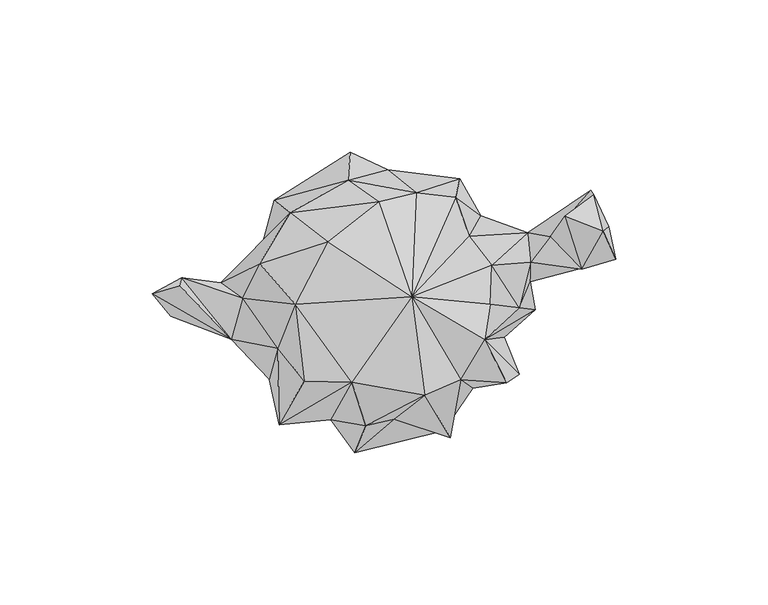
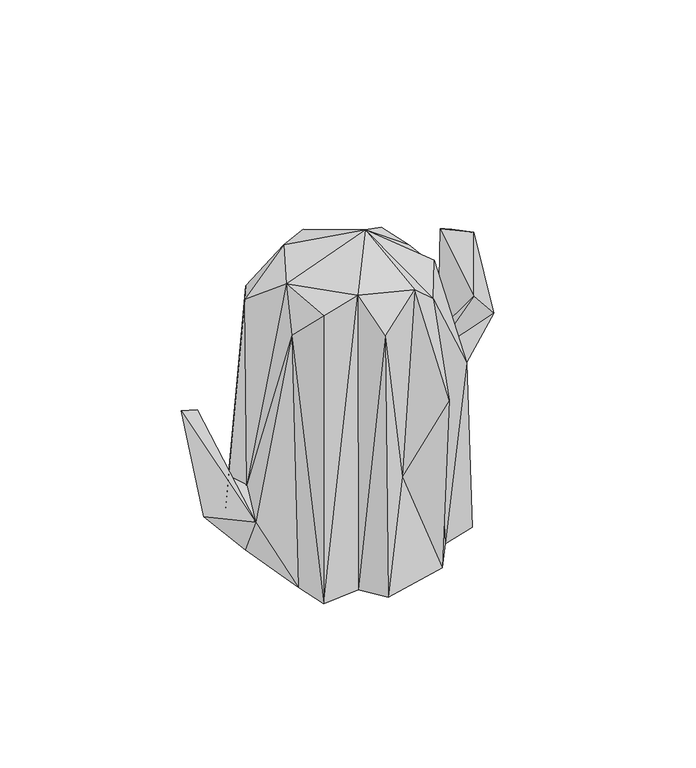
"""IFC4 building model written with IfcOpenShell, lengths in millimetres: geographic element geometry, Enscape AssetDefinition - Cactus, Porcelain 03 : Enscape AssetDefinition - Cactus, Porcelain 03."""

import ifcopenshell
import ifcopenshell.guid

model = None  # the IFC model being written
_history = None  # IfcOwnerHistory: only IFC2X3 demands one
_inside = {}  # id of a spatial element -> (the spatial element, [elements in it])
_under = {}  # id of a project, library or spatial element -> (it, [spatial elements below it])
_declared = {}  # id of a project -> (the project, [libraries it declares])
_typed = {}  # id of a type object -> (the type object, [elements of that type])
_made_of = {}  # id of a material, layer set ... -> (it, [elements and type objects made of it])


def new_model(schema):
    """Start an empty IFC model of exactly this schema.

    Asked for "IFC4X3", IfcOpenShell would pick the latest addendum, in which some entities
    have other attributes; the version numbers below select the first issue.
    IFC2X3 requires an IfcOwnerHistory on every rooted entity: one is made here for all.
    """
    global model, _history
    if schema == "IFC4X3":
        model = ifcopenshell.file(schema_version=(4, 3, 0, 0))
    else:
        model = ifcopenshell.file(schema=schema)
    _inside.clear()
    _under.clear()
    _declared.clear()
    _typed.clear()
    _made_of.clear()
    _history = None
    if model.schema == "IFC2X3":
        org = make("IfcOrganization", Name="unknown")
        user = make(
            "IfcPersonAndOrganization",
            ThePerson=make("IfcPerson", FamilyName="unknown"),
            TheOrganization=org,
        )
        app = make(
            "IfcApplication",
            ApplicationDeveloper=org,
            Version="unknown",
            ApplicationFullName="unknown",
            ApplicationIdentifier="unknown",
        )
        _history = make(
            "IfcOwnerHistory",
            OwningUser=user,
            OwningApplication=app,
            ChangeAction="ADDED",
            CreationDate=0,
        )
    return model


def make(cls, **values):
    """One entity of the class cls with the attributes given. An attribute that is None is left unset."""
    return model.create_entity(
        cls, **{name: value for name, value in values.items() if value is not None}
    )


def rooted(cls, **values):
    """An entity with a GlobalId (a new one), such as an element, a storey or a relation."""
    return make(cls, GlobalId=ifcopenshell.guid.new(), OwnerHistory=_history, **values)


def si_unit(unit_type, name, prefix=None):
    """IfcSIUnit, for example si_unit("LENGTHUNIT", "METRE", prefix="MILLI")."""
    return make("IfcSIUnit", UnitType=unit_type, Prefix=prefix, Name=name)


def assignment(units):
    """IfcUnitAssignment: the units of a project."""
    return None if units is None else make("IfcUnitAssignment", Units=units)


def point(xyz):
    """IfcCartesianPoint."""
    return None if xyz is None else make("IfcCartesianPoint", Coordinates=xyz)


def direction(xyz):
    """IfcDirection."""
    return None if xyz is None else make("IfcDirection", DirectionRatios=xyz)


def frame(location, z_axis=None, x_axis=None):
    """IfcAxis2Placement3D, a coordinate frame: its origin and axes. An axis left out is left unset."""
    return make(
        "IfcAxis2Placement3D",
        Location=point(location),
        Axis=direction(z_axis),
        RefDirection=direction(x_axis),
    )


def origin():
    """The frame at (0, 0, 0) with its axes left unset."""
    return frame((0.0, 0.0, 0.0))


def place(relative_to, where):
    """IfcLocalPlacement: puts the frame where relative to a parent placement (None: the world)."""
    return make(
        "IfcLocalPlacement", PlacementRelTo=relative_to, RelativePlacement=where
    )


def context(
    kind, dimensions, precision=None, world=None, true_north=None, identifier=None
):
    """IfcGeometricRepresentationContext, for example the 3D "Model" context."""
    return make(
        "IfcGeometricRepresentationContext",
        ContextIdentifier=identifier,
        ContextType=kind,
        CoordinateSpaceDimension=dimensions,
        Precision=precision,
        WorldCoordinateSystem=world,
        TrueNorth=true_north,
    )


def project(units=None, contexts=None):
    """IfcProject with its units and contexts."""
    return rooted(
        "IfcProject",
        Name="project",
        RepresentationContexts=contexts,
        UnitsInContext=assignment(units),
    )


def spatial(cls, under=None, at=None, **own):
    """A site, building, storey or space (cls), placed at a placement, below another one or the project."""
    s = rooted(cls, ObjectPlacement=at, **own)
    if under is not None:
        _under.setdefault(under.id(), (under, []))[1].append(s)
    return s


def faces_of(points, faces, orient=None, outer=None):
    """IfcFace entities. A face is a list of loops; a loop is a list of indices into points, from 0.

    orient and outer hold one flag for each loop. By default every Orientation is true, the
    first loop of a face is its IfcFaceOuterBound and the others are IfcFaceBound.
    """
    made = []
    for i, loops in enumerate(faces):
        bounds = []
        for j, loop in enumerate(loops):
            is_outer = j == 0 if outer is None else outer[i][j]
            bounds.append(
                make(
                    "IfcFaceOuterBound" if is_outer else "IfcFaceBound",
                    Bound=make("IfcPolyLoop", Polygon=[points[k] for k in loop]),
                    Orientation=True if orient is None else orient[i][j],
                )
            )
        made.append(make("IfcFace", Bounds=bounds))
    return made


def faceted_brep(points, faces, orient=None, outer=None, voids=None):
    """IfcFacetedBrep: a solid bounded by flat faces; with voids (closed shells), ...WithVoids."""
    shared = [point(p) for p in points]
    hull = make("IfcClosedShell", CfsFaces=faces_of(shared, faces, orient, outer))
    if voids is None:
        return make("IfcFacetedBrep", Outer=hull)
    return make(
        "IfcFacetedBrepWithVoids",
        Outer=hull,
        Voids=[
            make(cls, CfsFaces=faces_of(shared, fs, o, b)) for cls, fs, o, b in voids
        ],
    )


def shape(context_of_items, identifier, shape_type, items):
    """IfcShapeRepresentation: the items that make up one representation, for example the "Body"."""
    return make(
        "IfcShapeRepresentation",
        ContextOfItems=context_of_items,
        RepresentationIdentifier=identifier,
        RepresentationType=shape_type,
        Items=items,
    )


def source(mapping_origin, context_of_items, identifier, shape_type, items):
    """IfcRepresentationMap: a shape defined once, which mapped items show again and again."""
    return make(
        "IfcRepresentationMap",
        MappingOrigin=mapping_origin,
        MappedRepresentation=shape(context_of_items, identifier, shape_type, items),
    )


def transform(
    local_origin,
    x_axis=None,
    y_axis=None,
    z_axis=None,
    scale=None,
    scale2=None,
    scale3=None,
    uniform=True,
):
    """IfcCartesianTransformationOperator3D, or its non-uniform kind. x_axis, y_axis, z_axis: its Axis1, 2, 3."""
    if uniform:
        return make(
            "IfcCartesianTransformationOperator3D",
            Axis1=direction(x_axis),
            Axis2=direction(y_axis),
            LocalOrigin=point(local_origin),
            Scale=scale,
            Axis3=direction(z_axis),
        )
    return make(
        "IfcCartesianTransformationOperator3DnonUniform",
        Axis1=direction(x_axis),
        Axis2=direction(y_axis),
        LocalOrigin=point(local_origin),
        Scale=scale,
        Axis3=direction(z_axis),
        Scale2=scale2,
        Scale3=scale3,
    )


def mapped(mapping_source, mapping_target):
    """IfcMappedItem: shows the shape of a source again, moved by a transform."""
    return make(
        "IfcMappedItem", MappingSource=mapping_source, MappingTarget=mapping_target
    )


def made_of(thing, what):
    """Note that an element or type object is made of a material, layer set ...; save() writes the relation."""
    if what is not None:
        _made_of.setdefault(what.id(), (what, []))[1].append(thing)
    return thing


def element(
    cls,
    number,
    at=None,
    inside=None,
    cuts=None,
    type_object=None,
    material=None,
    context=None,
    identifier="Body",
    shape_type=None,
    held_by="IfcProductDefinitionShape",
    body=None,
    shapes=None,
    **own,
):
    """One element of the class cls, such as IfcWall. Its Tag is "e" and its number.

    at: its placement. inside: the storey or other place that contains it. cuts: it is an
    opening in that element (IfcRelVoidsElement). A single representation is given by context,
    identifier, shape_type and body (its items); several are given by shapes. held_by: the class
    of the entity that holds the representations. save() writes the other relations.
    """
    e = rooted(cls, Tag="e%d" % number, ObjectPlacement=at, **own)
    if body is not None:
        shapes = [shape(context, identifier, shape_type, body)]
    if shapes is not None:
        e.Representation = make(held_by, Representations=shapes)
    if inside is not None:
        _inside.setdefault(inside.id(), (inside, []))[1].append(e)
    if cuts is not None:
        rooted(
            "IfcRelVoidsElement", RelatingBuildingElement=cuts, RelatedOpeningElement=e
        )
    if type_object is not None:
        _typed.setdefault(type_object.id(), (type_object, []))[1].append(e)
    return made_of(e, material)


def aggregate(whole, parts):
    """IfcRelAggregates: a whole, such as a stair, and the parts it consists of."""
    return rooted("IfcRelAggregates", RelatingObject=whole, RelatedObjects=parts)


def save(model, path):
    """Write the relations noted so far, then the file.

    IfcRelAggregates (storeys below a building ...), IfcRelContainedInSpatialStructure (elements
    in a storey), IfcRelDefinesByType, IfcRelAssociatesMaterial and IfcRelDeclares: one each for
    every whole, place, type object, material and project.
    """
    for whole, parts in _under.values():
        aggregate(whole, parts)
    for where, things in _inside.values():
        rooted(
            "IfcRelContainedInSpatialStructure",
            RelatedElements=things,
            RelatingStructure=where,
        )
    for kind, things in _typed.values():
        rooted("IfcRelDefinesByType", RelatedObjects=things, RelatingType=kind)
    for what, things in _made_of.values():
        rooted("IfcRelAssociatesMaterial", RelatedObjects=things, RelatingMaterial=what)
    for by, libraries in _declared.values():
        rooted("IfcRelDeclares", RelatingContext=by, RelatedDefinitions=libraries)
    model.write(path)


def geographic_element_aec7c37b(model_context):
    return source(origin(), model_context, "Body", "Brep", [
        faceted_brep([(-68.7860027, -5.3280001, 33.6950012), (-41.561, 7.9429997, 0.0), (-48.8290004, -12.8309997, 28.492), (-36.3410003, -25.8889999, 0.0), (-52.2739999, 5.8229999, 24.1609998), (33.1519991, 27.8479997, 0.0), (43.5840003, 20.978, 0.0), (-16.2220001, -39.2879993, 0.0), (-29.4400007, 28.7900008, 113.3219972), (-34.7510017, 32.8610018, 0.0), (-10.5039999, 39.4160002, 104.0629968), (-0.387, 32.3490016, 128.8979948), (-39.5639986, 11.9599998, 120.499), (-17.2359999, 19.2339998, 135.0989938), (-9.7120004, 48.6849993, 0.0), (2.5299999, 42.9689996, 0.0), (11.8650002, 35.3109986, 120.0580001), (10.4609998, 1.107, 143.8740045), (-27.9270001, -1.318, 132.0959926), (-45.1389998, 0.726, 37.6529992), (-33.5719995, -15.8249997, 117.3269972), (-9.2209997, -26.8900003, 135.315001), (-24.8670001, -26.6970005, 130.5159926), (-65.219, 7.3600002, 53.2899983), (-65.8629984, 4.8090001, 79.4799998), (-74.9069974, 2.1780001, 83.6739987), (-33.1920013, -40.9619994, 0.0), (-8.2339998, -50.0370003, 0.0), (30.5630006, -28.8810004, 0.0), (-4.6239998, -41.2239991, 122.2390011), (4.6609999, -39.0589982, 48.1950007), (20.9090002, -42.9040007, 0.0), (14.7770001, -31.3129984, 132.2290003), (26.5769996, -26.0680001, 120.490998), (23.0289996, -45.1949984, 83.3609998), (41.7019986, -27.0789992, 84.4020024), (34.4329998, -13.0700003, 129.0480047), (45.8140001, -24.3640002, 0.0), (40.7779999, -12.0660001, 0.0), (36.2479985, -1.286, 123.2549995), (45.6979983, -2.4029999, 67.9309964), (51.0249995, -3.0990001, 0.0), (49.3369997, 6.114, 39.7100002), (49.4929999, 12.4549996, 62.872), (36.7619991, 11.5499999, 120.9390014), (29.2830002, 20.9560003, 126.3139993), (48.5280007, 22.2629998, 49.0989983), (55.9550002, 20.9369995, 65.7899976), (66.271998, 10.1389997, 85.8609974), (77.5360018, 13.4570003, 71.7040002), (69.3000033, 36.2370014, 77.376999), (70.3340024, 34.7409993, 102.6140004), (60.6839992, 27.5950003, 110.7669994), (73.4409988, 22.5980002, 107.4040011), (75.1129985, 24.1880007, 66.6809976), (26.2100007, 39.8960002, 0.0), (24.8319991, 33.9369997, 107.7309996)], [[[0, 1, 2]], [[1, 3, 2]], [[4, 1, 0]], [[1, 5, 6]], [[3, 1, 7]], [[7, 1, 6]], [[4, 8, 1]], [[9, 1, 8]], [[9, 5, 1]], [[8, 10, 9]], [[11, 10, 8]], [[12, 8, 4]], [[12, 13, 8]], [[11, 8, 13]], [[14, 5, 9]], [[9, 10, 14]], [[15, 14, 10]], [[10, 16, 15]], [[10, 11, 16]], [[11, 13, 17]], [[16, 11, 17]], [[13, 12, 18]], [[17, 13, 18]], [[12, 19, 18]], [[4, 19, 12]], [[19, 20, 18]], [[17, 18, 21]], [[18, 20, 22]], [[18, 22, 21]], [[19, 23, 2]], [[19, 2, 20]], [[23, 19, 4]], [[23, 4, 0]], [[23, 24, 2]], [[25, 23, 0]], [[25, 24, 23]], [[20, 2, 3]], [[2, 25, 0]], [[2, 24, 25]], [[7, 26, 3]], [[20, 3, 26]], [[20, 26, 22]], [[21, 26, 7]], [[22, 26, 21]], [[27, 7, 28]], [[21, 7, 29]], [[7, 27, 29]], [[6, 28, 7]], [[30, 29, 27]], [[28, 31, 27]], [[31, 30, 27]], [[32, 29, 30]], [[21, 29, 32]], [[17, 21, 32]], [[33, 32, 34]], [[32, 30, 34]], [[17, 32, 33]], [[34, 30, 31]], [[34, 31, 33]], [[28, 33, 31]], [[35, 33, 28]], [[36, 33, 35]], [[36, 17, 33]], [[35, 37, 36]], [[37, 35, 28]], [[38, 36, 37]], [[38, 37, 28]], [[39, 17, 36]], [[40, 39, 36]], [[41, 36, 38]], [[41, 40, 36]], [[6, 38, 28]], [[38, 6, 41]], [[42, 41, 6]], [[42, 40, 41]], [[43, 44, 40]], [[43, 40, 42]], [[44, 39, 40]], [[44, 17, 39]], [[44, 45, 17]], [[45, 44, 46]], [[43, 46, 44]], [[43, 47, 46]], [[47, 43, 48]], [[49, 43, 42]], [[49, 48, 43]], [[50, 47, 51]], [[48, 52, 47]], [[52, 51, 47]], [[47, 50, 46]], [[49, 53, 48]], [[53, 52, 48]], [[54, 53, 49]], [[54, 49, 42]], [[51, 53, 54]], [[51, 52, 53]], [[50, 51, 54]], [[46, 50, 54]], [[54, 42, 46]], [[6, 46, 42]], [[5, 46, 6]], [[15, 55, 5]], [[55, 56, 5]], [[45, 46, 5]], [[15, 5, 14]], [[5, 56, 45]], [[55, 15, 16]], [[55, 16, 56]], [[16, 17, 56]], [[45, 56, 17]]]),
    ])


if __name__ == "__main__":
    model = new_model("IFC4")
    model_context = context("Model", 3, world=origin())
    ifc_project = project(units=[si_unit("LENGTHUNIT", "METRE", prefix="MILLI")], contexts=[model_context])
    site = spatial("IfcSite", under=ifc_project)
    building = spatial("IfcBuilding", under=site)
    placement = place(None, origin())
    geographic_element_shape = geographic_element_aec7c37b(model_context)
    element("IfcGeographicElement", 1, ObjectType="Enscape AssetDefinition - Cactus, Porcelain 03 : Enscape AssetDefinition - Cactus, Porcelain 03", at=placement, inside=building, context=model_context, shape_type="MappedRepresentation", body=[
        mapped(geographic_element_shape, transform((0.0, 0.0, 0.0), x_axis=(1.0, 0.0, 0.0), y_axis=(0.0, 1.0, 0.0), z_axis=(0.0, 0.0, 1.0))),
    ])
    save(model, "model.ifc")
